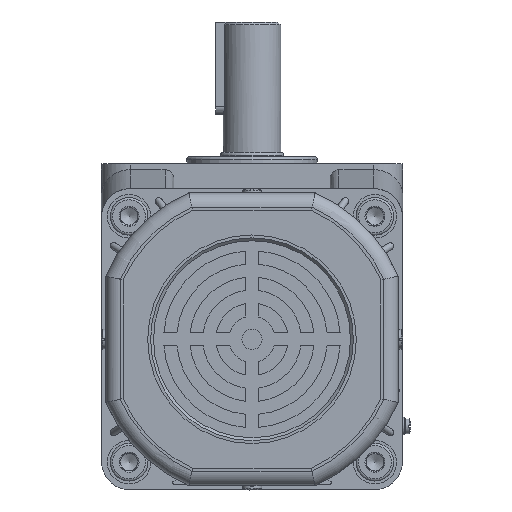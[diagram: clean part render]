
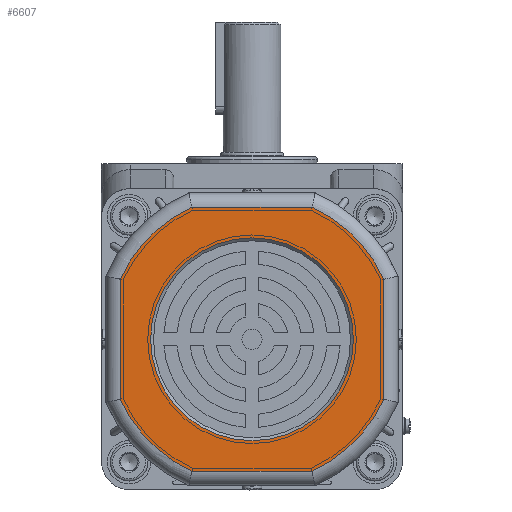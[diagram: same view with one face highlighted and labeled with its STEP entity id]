
A CAD part, left-side view. The second image highlights one B-rep face of the part: STEP entity #6607.
In plain terms, the highlighted planar face has unit normal (-1, 0, 0).
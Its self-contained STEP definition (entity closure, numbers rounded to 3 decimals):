
#1606=FACE_BOUND('',#10185,.T.);
#1607=FACE_BOUND('',#10186,.T.);
#2585=PLANE('',#28732);
#3454=LINE('',#40803,#4965);
#3455=LINE('',#40819,#4966);
#3458=LINE('',#40871,#4969);
#3459=LINE('',#40887,#4970);
#4965=VECTOR('',#32636,1.);
#4966=VECTOR('',#32639,1.);
#4969=VECTOR('',#32656,1.);
#4970=VECTOR('',#32659,1.);
#6607=ADVANCED_FACE('',(#1606,#1607),#2585,.F.);
#10185=EDGE_LOOP('',(#13954));
#10186=EDGE_LOOP('',(#13955,#13956,#13957,#13958,#13959,#13960,#13961,#13962));
#13954=ORIENTED_EDGE('',*,*,#22952,.T.);
#13955=ORIENTED_EDGE('',*,*,#22962,.T.);
#13956=ORIENTED_EDGE('',*,*,#22957,.T.);
#13957=ORIENTED_EDGE('',*,*,#22964,.T.);
#13958=ORIENTED_EDGE('',*,*,#22970,.T.);
#13959=ORIENTED_EDGE('',*,*,#22976,.T.);
#13960=ORIENTED_EDGE('',*,*,#22978,.T.);
#13961=ORIENTED_EDGE('',*,*,#22974,.T.);
#13962=ORIENTED_EDGE('',*,*,#22968,.T.);
#20028=VERTEX_POINT('',#40748);
#20033=VERTEX_POINT('',#40770);
#20034=VERTEX_POINT('',#40772);
#20036=VERTEX_POINT('',#40800);
#20039=VERTEX_POINT('',#40818);
#20040=VERTEX_POINT('',#40834);
#20043=VERTEX_POINT('',#40852);
#20044=VERTEX_POINT('',#40868);
#20047=VERTEX_POINT('',#40886);
#22952=EDGE_CURVE('',#20028,#20028,#26582,.T.);
#22957=EDGE_CURVE('',#20034,#20033,#26586,.T.);
#22962=EDGE_CURVE('',#20036,#20034,#3454,.T.);
#22964=EDGE_CURVE('',#20033,#20039,#3455,.T.);
#22968=EDGE_CURVE('',#20040,#20036,#26589,.T.);
#22970=EDGE_CURVE('',#20039,#20043,#26590,.T.);
#22974=EDGE_CURVE('',#20044,#20040,#3458,.T.);
#22976=EDGE_CURVE('',#20043,#20047,#3459,.T.);
#22978=EDGE_CURVE('',#20047,#20044,#26592,.T.);
#26582=CIRCLE('',#28470,35.);
#26586=CIRCLE('',#28476,50.);
#26589=CIRCLE('',#28482,50.);
#26590=CIRCLE('',#28484,50.);
#26592=CIRCLE('',#28489,50.);
#28470=AXIS2_PLACEMENT_3D('',#40747,#32617,#32618);
#28476=AXIS2_PLACEMENT_3D('',#40771,#32629,#32630);
#28482=AXIS2_PLACEMENT_3D('',#40837,#32645,#32646);
#28484=AXIS2_PLACEMENT_3D('',#40853,#32649,#32650);
#28489=AXIS2_PLACEMENT_3D('',#40890,#32663,#32664);
#28732=AXIS2_PLACEMENT_3D('',#41639,#33341,#33342);
#32617=DIRECTION('',(1.,0.,0.));
#32618=DIRECTION('',(0.,-1.,0.));
#32629=DIRECTION('',(-1.,0.,0.));
#32630=DIRECTION('',(0.,0.,1.));
#32636=DIRECTION('',(0.,-1.,0.));
#32639=DIRECTION('',(0.,0.,1.));
#32645=DIRECTION('',(-1.,0.,0.));
#32646=DIRECTION('',(0.,0.,1.));
#32649=DIRECTION('',(-1.,0.,0.));
#32650=DIRECTION('',(0.,0.,1.));
#32656=DIRECTION('',(0.,0.,-1.));
#32659=DIRECTION('',(0.,1.,0.));
#32663=DIRECTION('',(-1.,0.,0.));
#32664=DIRECTION('',(0.,0.,1.));
#33341=DIRECTION('',(1.,0.,0.));
#33342=DIRECTION('',(0.,0.,1.));
#40747=CARTESIAN_POINT('',(-251.8,-120.671,-58.491));
#40748=CARTESIAN_POINT('',(-251.8,-155.671,-58.491));
#40770=CARTESIAN_POINT('',(-251.8,-166.171,-79.221));
#40771=CARTESIAN_POINT('',(-251.8,-120.671,-58.491));
#40772=CARTESIAN_POINT('',(-251.8,-141.402,-103.991));
#40800=CARTESIAN_POINT('',(-251.8,-99.941,-103.991));
#40803=CARTESIAN_POINT('',(-251.8,-142.46,-103.991));
#40818=CARTESIAN_POINT('',(-251.8,-166.171,-37.76));
#40819=CARTESIAN_POINT('',(-251.8,-166.171,-36.702));
#40834=CARTESIAN_POINT('',(-251.8,-75.171,-79.221));
#40837=CARTESIAN_POINT('',(-251.8,-120.671,-58.491));
#40852=CARTESIAN_POINT('',(-251.8,-141.402,-12.991));
#40853=CARTESIAN_POINT('',(-251.8,-120.671,-58.491));
#40868=CARTESIAN_POINT('',(-251.8,-75.171,-37.76));
#40871=CARTESIAN_POINT('',(-251.8,-75.171,-80.28));
#40886=CARTESIAN_POINT('',(-251.8,-99.941,-12.991));
#40887=CARTESIAN_POINT('',(-251.8,-98.882,-12.991));
#40890=CARTESIAN_POINT('',(-251.8,-120.671,-58.491));
#41639=CARTESIAN_POINT('',(-251.8,-120.671,-58.491));
